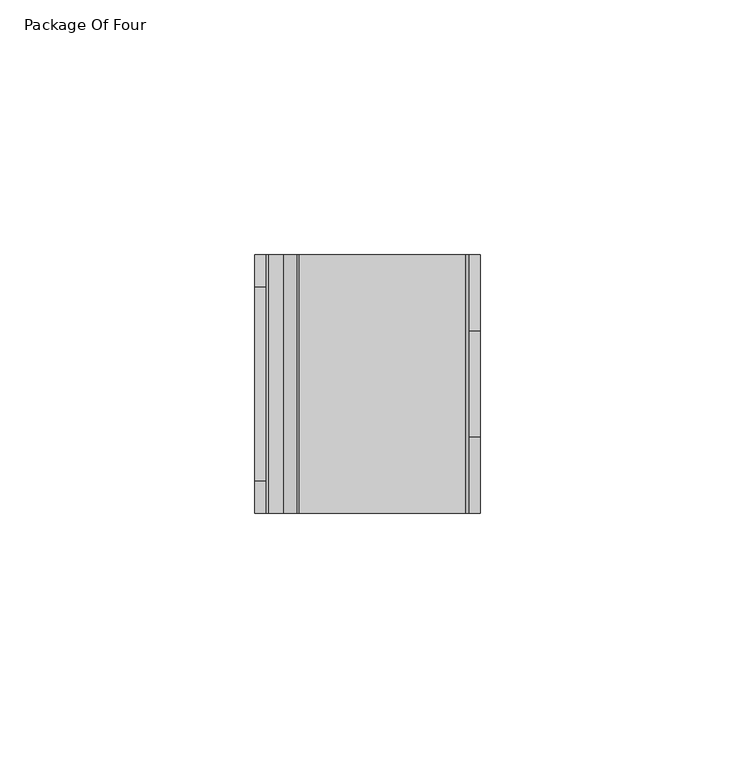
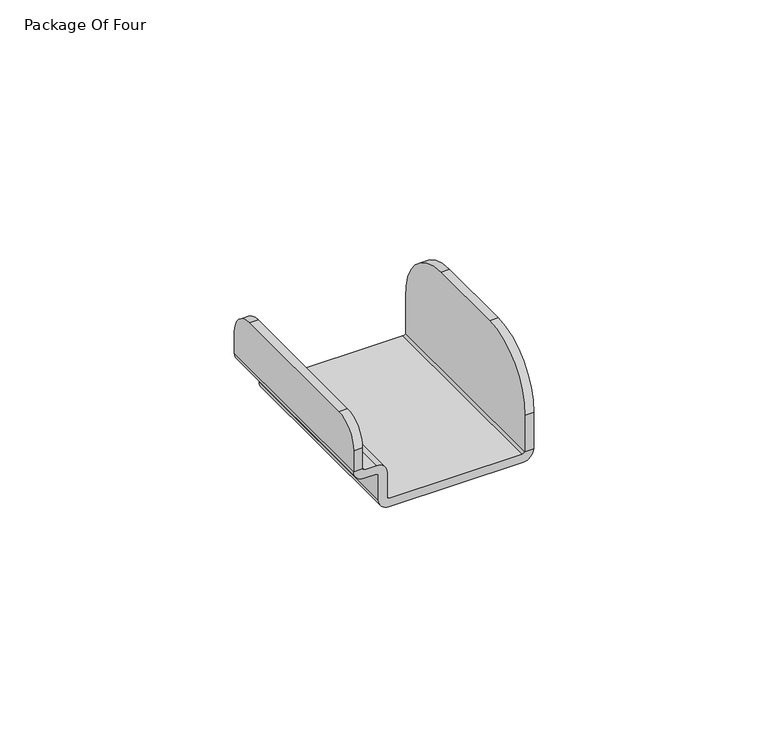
"""IFC4 building model written with IfcOpenShell, lengths in millimetres: furniture geometry, Steelcase Turnstone - Bivi - Accessories - Hook : Package Of Four."""

from ifc_helpers import new_model, si_unit, point, frame, frame_2d, origin, place, context, project, spatial, polyline, circle_curve, trimmed, segment, composite_curve, outline, extrude, source, transform, mapped, element, save


def package_of_four_442cce5f(model_context):
    return source(origin(), model_context, "Body", "SweptSolid", [
        extrude(outline(composite_curve([segment(polyline([(6.3500121, 543.8793386), (44.4499943, 543.8793386)]), True, "CONTINUOUS"), segment(trimmed(circle_curve(frame_2d((44.4499943, 537.5293329)), 6.3500057), [point((44.4499943, 543.8793386))], [point((50.8, 537.5293329))], False, "CARTESIAN"), True, "CONTINUOUS"), segment(polyline([(50.8, 537.5293329), (50.8, 532.0285337), (0.0, 532.0285337), (0.0, 537.5293264)]), True, "CONTINUOUS"), segment(trimmed(circle_curve(frame_2d((6.3500121, 537.5293264)), 6.3500121), [point((0.0, 537.5293264))], [point((6.3500121, 543.8793386))], False, "CARTESIAN"), True, "CONTINUOUS")], self_intersect=False)), frame((0.0, 0.0, 0.0), z_axis=(1.0, 0.0, 0.0), x_axis=(0.0, 1.0, 0.0)), (0.0, 0.0, 1.0), 2.159),
        extrude(outline(composite_curve([segment(polyline([(14.9781768, 547.4986998), (35.8759598, 547.4986998)]), True, "CONTINUOUS"), segment(trimmed(circle_curve(frame_2d((35.8759598, 532.56502)), 14.9336798), [point((35.8759598, 547.4986998))], [point((50.8, 532.0285337))], False, "CARTESIAN"), True, "CONTINUOUS"), segment(polyline([(50.8, 532.0285337), (50.8, 522.478), (0.0, 522.478), (0.0, 532.0285337)]), True, "CONTINUOUS"), segment(trimmed(circle_curve(frame_2d((14.9781768, 532.5126998)), 14.986), [point((0.0, 532.0285337))], [point((14.9781768, 547.4986998))], False, "CARTESIAN"), True, "CONTINUOUS")], self_intersect=False)), frame((42.1386, 0.0, 0.0), z_axis=(1.0, 0.0, 0.0), x_axis=(0.0, 1.0, 0.0)), (0.0, 0.0, 1.0), 2.159),
        extrude(outline(composite_curve([segment(polyline([(532.0285337, 2.159), (532.0285337, 0.0)]), True, "CONTINUOUS"), segment(trimmed(circle_curve(frame_2d((532.0031203, 2.5399985)), 2.5401256), [point((532.0285337, 0.0))], [point((529.4629947, 2.5399985))], False, "CARTESIAN"), True, "CONTINUOUS"), segment(polyline([(529.4629947, 2.5399985), (529.4629947, 5.589449)]), True, "CONTINUOUS"), segment(trimmed(circle_curve(frame_2d((528.9637247, 5.589449)), 0.49927), [point((529.4629947, 5.589449))], [point((528.9637247, 6.088719))], True, "CARTESIAN"), True, "CONTINUOUS"), segment(polyline([(528.9637247, 6.088719), (522.4790083, 6.088719)]), True, "CONTINUOUS"), segment(trimmed(circle_curve(frame_2d((522.4790083, 8.6297326)), 2.5410136), [point((522.4790083, 6.088719))], [point((519.9379947, 8.6297326))], False, "CARTESIAN"), True, "CONTINUOUS"), segment(polyline([(519.9379947, 8.6297326), (519.9379947, 41.7575992)]), True, "CONTINUOUS"), segment(trimmed(circle_curve(frame_2d((522.4779954, 41.7575992)), 2.5400008), [point((519.9379947, 41.7575992))], [point((522.478, 44.2976))], False, "CARTESIAN"), True, "CONTINUOUS"), segment(polyline([(522.478, 44.2976), (522.478, 42.1386)]), True, "CONTINUOUS"), segment(trimmed(circle_curve(frame_2d((522.8765824, 41.4685952)), 0.7795988), [point((522.478, 42.1386))], [point((522.0969835, 41.4685952))], True, "CARTESIAN"), True, "CONTINUOUS"), segment(polyline([(522.0969835, 41.4685952), (522.0969835, 8.7492714)]), True, "CONTINUOUS"), segment(trimmed(circle_curve(frame_2d((522.5985379, 8.7492714)), 0.5015544), [point((522.0969835, 8.7492714))], [point((522.5985379, 8.247717))], True, "CARTESIAN"), True, "CONTINUOUS"), segment(polyline([(522.5985379, 8.247717), (529.063392, 8.247717)]), True, "CONTINUOUS"), segment(trimmed(circle_curve(frame_2d((529.063392, 5.6891254)), 2.5585916), [point((529.063392, 8.247717))], [point((531.6219835, 5.6891254))], False, "CARTESIAN"), True, "CONTINUOUS"), segment(polyline([(531.6219835, 5.6891254), (531.6219835, 2.8007241)]), True, "CONTINUOUS"), segment(trimmed(circle_curve(frame_2d((532.3317272, 2.8007241)), 0.7097437), [point((531.6219835, 2.8007241))], [point((532.0285337, 2.159))], True, "CARTESIAN"), True, "CONTINUOUS")], self_intersect=False)), frame((0.0, 0.0, 0.0), z_axis=(0.0, 1.0, 0.0), x_axis=(0.0, 0.0, 1.0)), (0.0, 0.0, 1.0), 50.8),
    ])


if __name__ == "__main__":
    model = new_model("IFC4")
    model_context = context("Model", 3, world=origin())
    ifc_project = project(units=[si_unit("LENGTHUNIT", "METRE", prefix="MILLI")], contexts=[model_context])
    site = spatial("IfcSite", under=ifc_project)
    building = spatial("IfcBuilding", under=site)
    placement = place(None, origin())
    package_of_four_shape = package_of_four_442cce5f(model_context)
    element("IfcFurniture", 1, ObjectType="Steelcase Turnstone - Bivi - Accessories - Hook : Package Of Four", at=placement, inside=building, context=model_context, shape_type="MappedRepresentation", body=[
        mapped(package_of_four_shape, transform((0.0, 0.0, 0.0), x_axis=(1.0, 0.0, 0.0), y_axis=(0.0, 1.0, 0.0), z_axis=(0.0, 0.0, 1.0))),
    ])
    save(model, "model.ifc")
